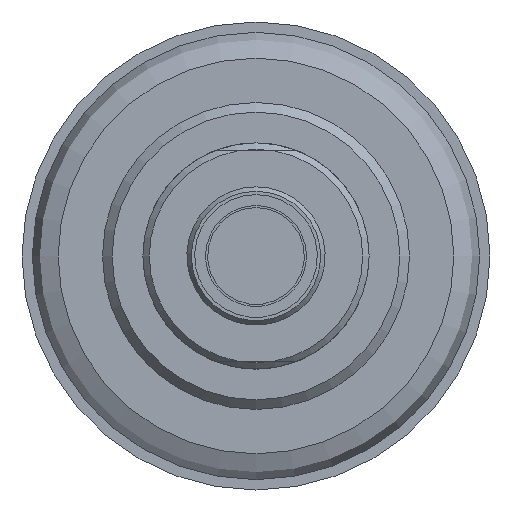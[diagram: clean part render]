
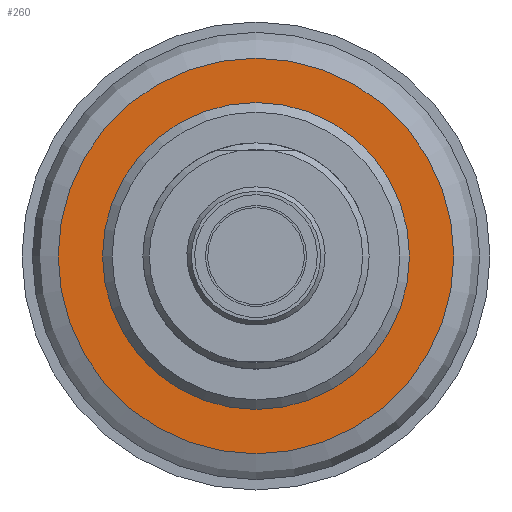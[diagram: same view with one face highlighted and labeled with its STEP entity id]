
A CAD part, left-side view. The second image highlights one B-rep face of the part: STEP entity #260.
In plain terms, the highlighted planar face has unit normal (-1, 0, 0).
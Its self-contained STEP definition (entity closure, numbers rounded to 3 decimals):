
#260 = ADVANCED_FACE( '', ( #560, #561 ), #562, .F. );
#560 = FACE_BOUND( '', #1270, .T. );
#561 = FACE_OUTER_BOUND( '', #1271, .T. );
#562 = PLANE( '', #1272 );
#1270 = EDGE_LOOP( '', ( #2121 ) );
#1271 = EDGE_LOOP( '', ( #2122 ) );
#1272 = AXIS2_PLACEMENT_3D( '', #2123, #2124, #2125 );
#2121 = ORIENTED_EDGE( '', *, *, #2473, .F. );
#2122 = ORIENTED_EDGE( '', *, *, #2467, .T. );
#2123 = CARTESIAN_POINT( '', ( 1015., 0., 6.12 ) );
#2124 = DIRECTION( '', ( 1., 0., 0. ) );
#2125 = DIRECTION( '', ( 0., 1., 0. ) );
#2467 = EDGE_CURVE( '', #2812, #2812, #2813, .T. );
#2473 = EDGE_CURVE( '', #2819, #2819, #2820, .T. );
#2812 = VERTEX_POINT( '', #3466 );
#2813 = CIRCLE( '', #3467, 6.12 );
#2819 = VERTEX_POINT( '', #3474 );
#2820 = CIRCLE( '', #3475, 4.75 );
#3466 = CARTESIAN_POINT( '', ( 1015., -6.12, 0. ) );
#3467 = AXIS2_PLACEMENT_3D( '', #3755, #3756, #3757 );
#3474 = CARTESIAN_POINT( '', ( 1015., -4.75, 0. ) );
#3475 = AXIS2_PLACEMENT_3D( '', #3762, #3763, #3764 );
#3755 = CARTESIAN_POINT( '', ( 1015., 0., 0. ) );
#3756 = DIRECTION( '', ( -1., 0., 0. ) );
#3757 = DIRECTION( '', ( 0., -1., 0. ) );
#3762 = CARTESIAN_POINT( '', ( 1015., 0., 0. ) );
#3763 = DIRECTION( '', ( -1., 0., 0. ) );
#3764 = DIRECTION( '', ( 0., -1., 0. ) );
